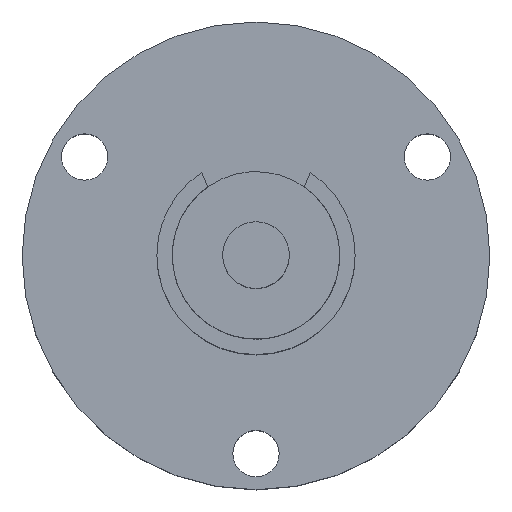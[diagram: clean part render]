
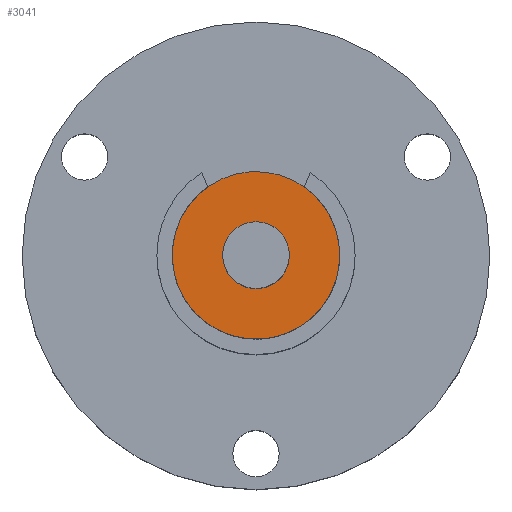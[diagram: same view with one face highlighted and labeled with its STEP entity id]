
A CAD part, top view. The second image highlights one B-rep face of the part: STEP entity #3041.
In plain terms, the highlighted planar face has unit normal (0, 0, 1) as drawn and (0, 0, -1) by its records, which use the part's own axes.
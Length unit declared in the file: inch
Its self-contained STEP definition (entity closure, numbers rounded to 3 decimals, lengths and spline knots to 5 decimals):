
#50 = EDGE_CURVE ( 'NONE', #1000, #593, #3186, .T. ) ;
#252 = CARTESIAN_POINT ( 'NONE',  ( -0.3135, 0., 0. ) ) ;
#295 = CIRCLE ( 'NONE', #2007, 0.12475 ) ;
#340 = PLANE ( 'NONE',  #2775 ) ;
#425 = DIRECTION ( 'NONE',  ( 0., 0., 1. ) ) ;
#465 = CARTESIAN_POINT ( 'NONE',  ( -0.12475, 0., 0. ) ) ;
#593 = VERTEX_POINT ( 'NONE', #1359 ) ;
#597 = DIRECTION ( 'NONE',  ( 0., 0., 1. ) ) ;
#679 = CARTESIAN_POINT ( 'NONE',  ( 0., 0., 0. ) ) ;
#708 = DIRECTION ( 'NONE',  ( 0., 0., 1. ) ) ;
#779 = VERTEX_POINT ( 'NONE', #2082 ) ;
#781 = AXIS2_PLACEMENT_3D ( 'NONE', #679, #708, #2029 ) ;
#790 = CIRCLE ( 'NONE', #847, 0.3135 ) ;
#798 = ORIENTED_EDGE ( 'NONE', *, *, #1306, .T. ) ;
#847 = AXIS2_PLACEMENT_3D ( 'NONE', #2778, #425, #1473 ) ;
#900 = DIRECTION ( 'NONE',  ( -1., 0., 0. ) ) ;
#986 = EDGE_LOOP ( 'NONE', ( #1579, #2033 ) ) ;
#1000 = VERTEX_POINT ( 'NONE', #252 ) ;
#1169 = CIRCLE ( 'NONE', #781, 0.12475 ) ;
#1257 = DIRECTION ( 'NONE',  ( 1., 0., 0. ) ) ;
#1306 = EDGE_CURVE ( 'NONE', #1469, #779, #1169, .T. ) ;
#1359 = CARTESIAN_POINT ( 'NONE',  ( 0.3135, 0., 0. ) ) ;
#1469 = VERTEX_POINT ( 'NONE', #465 ) ;
#1473 = DIRECTION ( 'NONE',  ( 1., 0., 0. ) ) ;
#1579 = ORIENTED_EDGE ( 'NONE', *, *, #2149, .F. ) ;
#1698 = ORIENTED_EDGE ( 'NONE', *, *, #2270, .T. ) ;
#1831 = EDGE_LOOP ( 'NONE', ( #1698, #798 ) ) ;
#1896 = CARTESIAN_POINT ( 'NONE',  ( 0., 0., 0. ) ) ;
#2007 = AXIS2_PLACEMENT_3D ( 'NONE', #1896, #597, #2694 ) ;
#2029 = DIRECTION ( 'NONE',  ( 1., 0., 0. ) ) ;
#2033 = ORIENTED_EDGE ( 'NONE', *, *, #50, .F. ) ;
#2082 = CARTESIAN_POINT ( 'NONE',  ( 0.12475, 0., 0. ) ) ;
#2149 = EDGE_CURVE ( 'NONE', #593, #1000, #790, .T. ) ;
#2235 = CARTESIAN_POINT ( 'NONE',  ( 0., 0., 0. ) ) ;
#2270 = EDGE_CURVE ( 'NONE', #779, #1469, #295, .T. ) ;
#2536 = DIRECTION ( 'NONE',  ( 0., 0., 1. ) ) ;
#2694 = DIRECTION ( 'NONE',  ( 1., 0., 0. ) ) ;
#2695 = FACE_BOUND ( 'NONE', #1831, .T. ) ;
#2775 = AXIS2_PLACEMENT_3D ( 'NONE', #2235, #2955, #900 ) ;
#2778 = CARTESIAN_POINT ( 'NONE',  ( 0., 0., 0. ) ) ;
#2846 = AXIS2_PLACEMENT_3D ( 'NONE', #3301, #2536, #1257 ) ;
#2955 = DIRECTION ( 'NONE',  ( 0., 0., -1. ) ) ;
#3041 = ADVANCED_FACE ( 'NONE', ( #2695, #3251 ), #340, .T. ) ;
#3186 = CIRCLE ( 'NONE', #2846, 0.3135 ) ;
#3251 = FACE_OUTER_BOUND ( 'NONE', #986, .T. ) ;
#3301 = CARTESIAN_POINT ( 'NONE',  ( 0., 0., 0. ) ) ;
